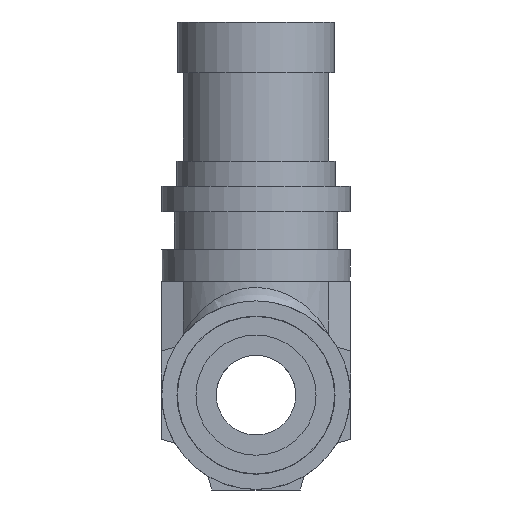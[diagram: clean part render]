
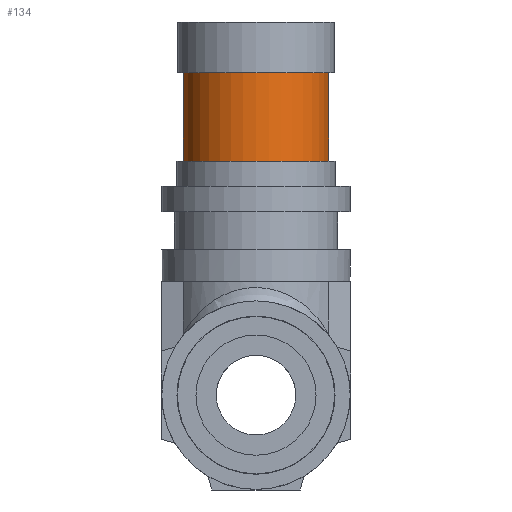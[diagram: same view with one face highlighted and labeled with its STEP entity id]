
A CAD part, left-side view. The second image highlights one B-rep face of the part: STEP entity #134.
In plain terms, the highlighted cylindrical face has radius 5.74 mm (diameter 11.48 mm), a full revolution.
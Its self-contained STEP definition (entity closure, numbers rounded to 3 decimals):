
#134 = ADVANCED_FACE( '', ( #301, #302 ), #303, .T. );
#301 = FACE_OUTER_BOUND( '', #920, .T. );
#302 = FACE_OUTER_BOUND( '', #921, .T. );
#303 = CYLINDRICAL_SURFACE( '', #922, 5.74 );
#920 = EDGE_LOOP( '', ( #1397 ) );
#921 = EDGE_LOOP( '', ( #1398 ) );
#922 = AXIS2_PLACEMENT_3D( '', #1399, #1400, #1401 );
#1397 = ORIENTED_EDGE( '', *, *, #1653, .F. );
#1398 = ORIENTED_EDGE( '', *, *, #1654, .T. );
#1399 = CARTESIAN_POINT( '', ( 0., 0., 54. ) );
#1400 = DIRECTION( '', ( 0., 0., -1. ) );
#1401 = DIRECTION( '', ( 1., 0., 0. ) );
#1653 = EDGE_CURVE( '', #1889, #1889, #1890, .T. );
#1654 = EDGE_CURVE( '', #1891, #1891, #1892, .T. );
#1889 = VERTEX_POINT( '', #2309 );
#1890 = CIRCLE( '', #2310, 5.74 );
#1891 = VERTEX_POINT( '', #2311 );
#1892 = CIRCLE( '', #2312, 5.74 );
#2309 = CARTESIAN_POINT( '', ( 5.74, 0., 25.5 ) );
#2310 = AXIS2_PLACEMENT_3D( '', #2567, #2568, #2569 );
#2311 = CARTESIAN_POINT( '', ( 5.74, 0., 18.5 ) );
#2312 = AXIS2_PLACEMENT_3D( '', #2570, #2571, #2572 );
#2567 = CARTESIAN_POINT( '', ( 0., 0., 25.5 ) );
#2568 = DIRECTION( '', ( 0., 0., 1. ) );
#2569 = DIRECTION( '', ( 1., 0., 0. ) );
#2570 = CARTESIAN_POINT( '', ( 0., 0., 18.5 ) );
#2571 = DIRECTION( '', ( 0., 0., 1. ) );
#2572 = DIRECTION( '', ( 1., 0., 0. ) );
